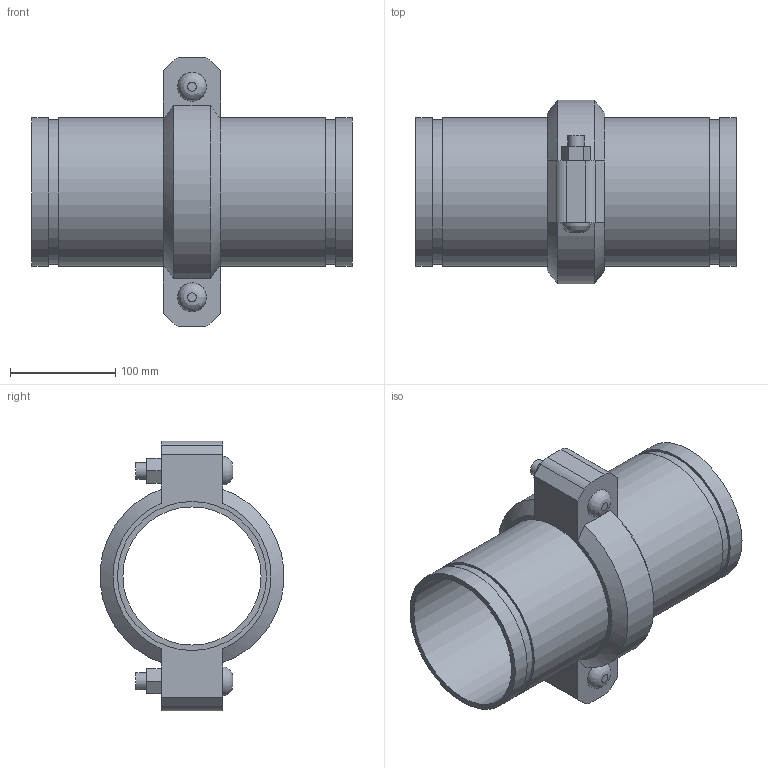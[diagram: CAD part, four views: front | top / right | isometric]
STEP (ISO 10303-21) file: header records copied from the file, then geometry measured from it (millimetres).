
FILE_DESCRIPTION(/* description */ ('VIC EXPANSION JOINT 1 COUPLING COMPRESSED STYLE 155 (OGS)','CAx-IF Rec.Pracs.---Representation and Presentation of Product Manufacturing Information (PMI)---4.0---2014-10-13'),/* implementation_level */ '2;1');
FILE_NAME(/* name */ 'C:\Users\kkamble\AppData\Roaming\Autodesk\ApplicationPlugins\Victaulic.Temp\A74\Victaulic_IPS_Expansion Joint_Compressed_1 Coupling_Style 155 (OGS)_5 (125).stp',/* time_stamp */ '2021-06-27T00:14:35+02:00',/* author */ ('kkamble'),/* organization */ ('Victaulic'),/* preprocessor_version */ 'ST-DEVELOPER v17.2',/* originating_system */ 'Autodesk Inventor 2019',/* authorisation */ '');
FILE_SCHEMA (('AP242_MANAGED_MODEL_BASED_3D_ENGINEERING_MIM_LF { 1 0 10303 442 1 1 4 }'));
Length unit declared in the file: inch
Products named in the file (3): 155-05.0; Nipple-05.0; 075-05.0
Assembly tree (3 placements, depth 2):
  155-05.0
    Nipple-05.0  x2
    075-05.0
Bounding box: 304.04 x 174.16 x 255.78 mm (x, y, z)
Volume: 1303365.9 mm3; surface area: 376660.7 mm2
Topology: 3 solids, 5 shells, 81 faces, 193 edges, 138 vertices
Faces by surface type: plane 48, cylinder 27, cone 4, bspline 2
Full cylindrical faces by diameter (mm): 15.875 x4, 17.424 x2, 130.988 x2, 134.95 x1, 137.033 x4, 141.3 x8
Entity records: 2310 total; most frequent: CARTESIAN_POINT 420, DIRECTION 369, ORIENTED_EDGE 326, EDGE_CURVE 163, AXIS2_PLACEMENT_3D 141, VERTEX_POINT 114, EDGE_LOOP 89, LINE 87
